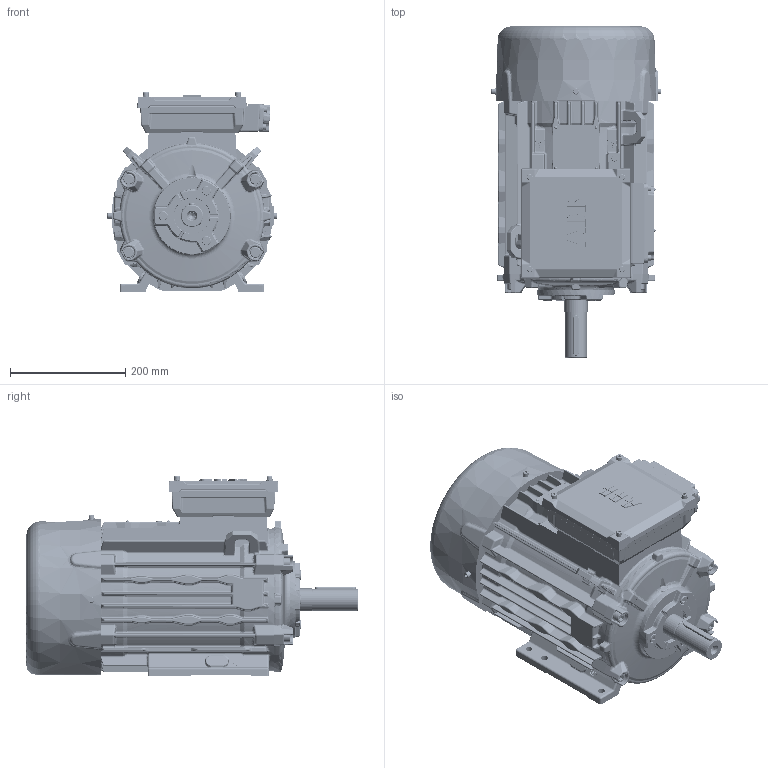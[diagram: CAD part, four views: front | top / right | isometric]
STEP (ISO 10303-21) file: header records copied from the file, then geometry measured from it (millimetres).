
FILE_DESCRIPTION(/* description */ (''),/* implementation_level */ '2;1');
FILE_NAME(/* name */ '3GZF500113-219_D_001_1-DIMENSION PRINT.stp',/* time_stamp */ '2021-08-13T08:20:51+03:00',/* author */ (''),/* organization */ (''),/* preprocessor_version */ 'ST-DEVELOPER v16.7',/* originating_system */ 'SIEMENS PLM Software NX 12.0',/* authorisation */ '');
FILE_SCHEMA (('AUTOMOTIVE_DESIGN { 1 0 10303 214 3 1 1 1 }'));
Length unit declared in the file: millimetre
Products named in the file (1): FIJU7478BC5Erh0k
Bounding box: 294.39 x 576.1 x 346.35 mm (x, y, z)
Volume: 27139628.3 mm3; surface area: 1012900.9 mm2
Topology: 1 solids, 52 shells, 5576 faces, 13372 edges, 7672 vertices
Faces by surface type: bspline 2108, cylinder 1735, plane 1170, cone 245, torus 192, sphere 124, extrusion 2
Full cylindrical faces by diameter (mm): 2.5 x16, 2.9 x8, 4.5 x4, 5 x9, 5.06 x12, 6 x7, 6.4 x3, 7 x8, 8 x4, 8.8 x6, 10 x15, 10.3 x9, 11 x5, 12 x10, 12.5 x4, 13 x5, 15 x1, 16 x7, 18 x7, 20 x4, 37.41 x1, 38.01 x1, 39.971 x1, 40.5 x1, 66 x1, 124 x1
Entity records: 203426 total; most frequent: CARTESIAN_POINT 85479, ORIENTED_EDGE 25160, DIRECTION 21982, EDGE_CURVE 12580, AXIS2_PLACEMENT_3D 8946, VERTEX_POINT 7475, EDGE_LOOP 6009, ADVANCED_FACE 5576
